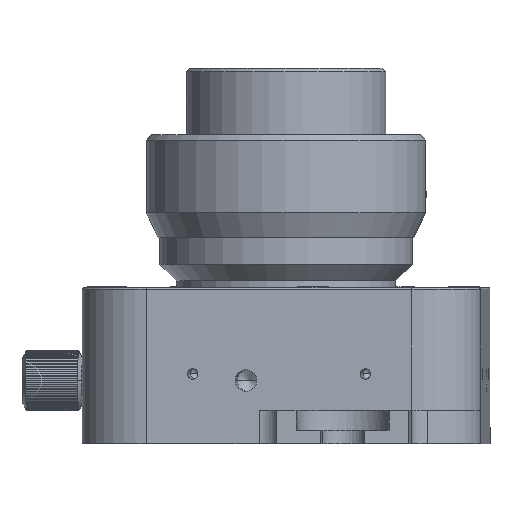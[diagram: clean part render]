
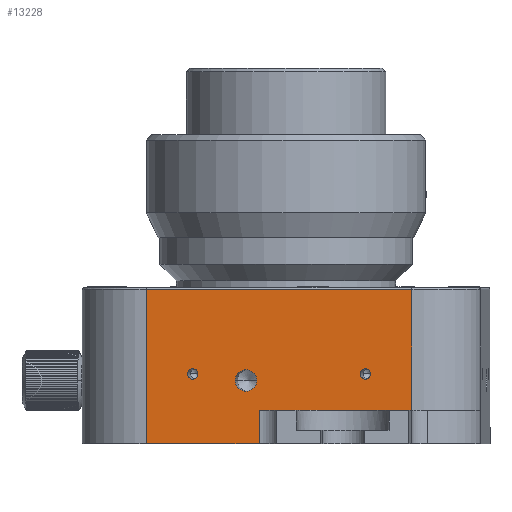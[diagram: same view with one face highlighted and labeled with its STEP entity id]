
A CAD part, left-side view. The second image highlights one B-rep face of the part: STEP entity #13228.
In plain terms, the highlighted planar face has unit normal (-0.999, 0.035, 0).
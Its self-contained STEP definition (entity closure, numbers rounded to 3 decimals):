
#6321 = CARTESIAN_POINT ( 'NONE',  ( -123.002, 2.684, -9.108 ) ) ;
#6328 = CARTESIAN_POINT ( 'NONE',  ( -123.221, -3.617, -9.108 ) ) ;
#6414 = CARTESIAN_POINT ( 'NONE',  ( -123.459, -10.46, 9.092 ) ) ;
#6822 = DIRECTION ( 'NONE',  ( -0.035, -0.999, 0. ) ) ;
#6823 = DIRECTION ( 'NONE',  ( 0.999, -0.035, 0. ) ) ;
#6824 = CARTESIAN_POINT ( 'NONE',  ( -123.216, -3.465, -3.608 ) ) ;
#6825 = AXIS2_PLACEMENT_3D ( 'NONE', #6824, #6823, #6822 ) ;
#6826 = CIRCLE ( 'NONE', #6825, 0.784 ) ;
#6860 = DIRECTION ( 'NONE',  ( -0.035, -0.999, 0. ) ) ;
#6861 = DIRECTION ( 'NONE',  ( 0.999, -0.035, 0. ) ) ;
#6862 = CARTESIAN_POINT ( 'NONE',  ( -122.313, 22.52, -3.608 ) ) ;
#6863 = AXIS2_PLACEMENT_3D ( 'NONE', #6862, #6861, #6860 ) ;
#6864 = CIRCLE ( 'NONE', #6863, 0.783 ) ;
#6871 = DIRECTION ( 'NONE',  ( 0.035, 0.999, 0. ) ) ;
#6872 = VECTOR ( 'NONE', #6871, 1000. ) ;
#6873 = CARTESIAN_POINT ( 'NONE',  ( -122.765, 9.527, 9.092 ) ) ;
#6874 = LINE ( 'NONE', #6873, #6872 ) ;
#6875 = CARTESIAN_POINT ( 'NONE',  ( -122.07, 29.515, 9.092 ) ) ;
#6904 = DIRECTION ( 'NONE',  ( -0.035, -0.999, 0. ) ) ;
#6905 = VECTOR ( 'NONE', #6904, 1000. ) ;
#6906 = CARTESIAN_POINT ( 'NONE',  ( -122.765, 9.527, -9.108 ) ) ;
#6907 = LINE ( 'NONE', #6906, #6905 ) ;
#6914 = DIRECTION ( 'NONE',  ( -0.035, -0.999, 0. ) ) ;
#6915 = DIRECTION ( 'NONE',  ( 0.999, -0.035, 0. ) ) ;
#6916 = CARTESIAN_POINT ( 'NONE',  ( -122.591, 14.524, -4.608 ) ) ;
#6917 = AXIS2_PLACEMENT_3D ( 'NONE', #6916, #6915, #6914 ) ;
#6922 = CIRCLE ( 'NONE', #6917, 1.621 ) ;
#6971 = DIRECTION ( 'NONE',  ( -0.035, -0.999, 0. ) ) ;
#6972 = VECTOR ( 'NONE', #6971, 1000. ) ;
#6973 = CARTESIAN_POINT ( 'NONE',  ( -122.765, 9.527, -9.108 ) ) ;
#6974 = LINE ( 'NONE', #6973, #6972 ) ;
#7076 = DIRECTION ( 'NONE',  ( -0.035, -0.999, 0. ) ) ;
#7077 = VECTOR ( 'NONE', #7076, 1000. ) ;
#7078 = CARTESIAN_POINT ( 'NONE',  ( -122.765, 9.527, -9.108 ) ) ;
#7079 = LINE ( 'NONE', #7078, #7077 ) ;
#7080 = CARTESIAN_POINT ( 'NONE',  ( -123.459, -10.46, -9.108 ) ) ;
#7101 = DIRECTION ( 'NONE',  ( 0., 0., 1. ) ) ;
#7102 = VECTOR ( 'NONE', #7101, 1000. ) ;
#7103 = CARTESIAN_POINT ( 'NONE',  ( -123.459, -10.46, -14.108 ) ) ;
#7108 = LINE ( 'NONE', #7103, #7102 ) ;
#7401 = FACE_BOUND ( 'NONE', #13279, .T. ) ;
#7402 = FACE_BOUND ( 'NONE', #13219, .T. ) ;
#7403 = FACE_BOUND ( 'NONE', #13216, .T. ) ;
#7404 = FACE_OUTER_BOUND ( 'NONE', #13229, .T. ) ;
#7410 = PLANE ( 'NONE',  #7469 ) ;
#7418 = DIRECTION ( 'NONE',  ( -0.035, -0.999, 0. ) ) ;
#7419 = VECTOR ( 'NONE', #7418, 1000. ) ;
#7420 = CARTESIAN_POINT ( 'NONE',  ( -122.07, 29.515, -14.108 ) ) ;
#7421 = LINE ( 'NONE', #7420, #7419 ) ;
#7422 = CARTESIAN_POINT ( 'NONE',  ( -122.07, 29.515, -14.108 ) ) ;
#7423 = DIRECTION ( 'NONE',  ( 0., 0., 1. ) ) ;
#7424 = VECTOR ( 'NONE', #7423, 1000. ) ;
#7425 = CARTESIAN_POINT ( 'NONE',  ( -122.07, 29.515, -14.108 ) ) ;
#7426 = LINE ( 'NONE', #7425, #7424 ) ;
#7466 = DIRECTION ( 'NONE',  ( -0.035, -0.999, 0. ) ) ;
#7467 = DIRECTION ( 'NONE',  ( -0.999, 0.035, 0. ) ) ;
#7468 = CARTESIAN_POINT ( 'NONE',  ( -122.765, 9.527, -14.108 ) ) ;
#7469 = AXIS2_PLACEMENT_3D ( 'NONE', #7468, #7467, #7466 ) ;
#9091 = CARTESIAN_POINT ( 'NONE',  ( -122.66, 12.526, -14.108 ) ) ;
#9261 = DIRECTION ( 'NONE',  ( 0., 0., -1. ) ) ;
#9262 = VECTOR ( 'NONE', #9261, 1000. ) ;
#9263 = CARTESIAN_POINT ( 'NONE',  ( -122.66, 12.526, -14.108 ) ) ;
#9264 = LINE ( 'NONE', #9263, #9262 ) ;
#9265 = CARTESIAN_POINT ( 'NONE',  ( -122.66, 12.526, -9.108 ) ) ;
#9363 = DIRECTION ( 'NONE',  ( -0.035, -0.999, 0. ) ) ;
#9364 = DIRECTION ( 'NONE',  ( 0.999, -0.035, 0. ) ) ;
#9365 = CARTESIAN_POINT ( 'NONE',  ( -122.591, 14.524, -4.608 ) ) ;
#9366 = AXIS2_PLACEMENT_3D ( 'NONE', #9365, #9364, #9363 ) ;
#9367 = CIRCLE ( 'NONE', #9366, 1.621 ) ;
#9369 = CARTESIAN_POINT ( 'NONE',  ( -122.647, 12.904, -4.608 ) ) ;
#9370 = CARTESIAN_POINT ( 'NONE',  ( -122.535, 16.144, -4.608 ) ) ;
#9442 = CARTESIAN_POINT ( 'NONE',  ( -122.286, 23.303, -3.608 ) ) ;
#9461 = CARTESIAN_POINT ( 'NONE',  ( -122.341, 21.737, -3.608 ) ) ;
#9462 = DIRECTION ( 'NONE',  ( -0.035, -0.999, 0. ) ) ;
#9463 = DIRECTION ( 'NONE',  ( 0.999, -0.035, 0. ) ) ;
#9464 = CARTESIAN_POINT ( 'NONE',  ( -122.313, 22.52, -3.608 ) ) ;
#9465 = AXIS2_PLACEMENT_3D ( 'NONE', #9464, #9463, #9462 ) ;
#9466 = CIRCLE ( 'NONE', #9465, 0.783 ) ;
#9818 = CARTESIAN_POINT ( 'NONE',  ( -123.243, -4.248, -3.608 ) ) ;
#9866 = DIRECTION ( 'NONE',  ( -0.035, -0.999, 0. ) ) ;
#9867 = DIRECTION ( 'NONE',  ( 0.999, -0.035, 0. ) ) ;
#9868 = CARTESIAN_POINT ( 'NONE',  ( -123.216, -3.465, -3.608 ) ) ;
#9869 = AXIS2_PLACEMENT_3D ( 'NONE', #9868, #9867, #9866 ) ;
#9870 = CIRCLE ( 'NONE', #9869, 0.784 ) ;
#9891 = CARTESIAN_POINT ( 'NONE',  ( -123.189, -2.682, -3.608 ) ) ;
#12619 = VERTEX_POINT ( 'NONE', #6328 ) ;
#12623 = VERTEX_POINT ( 'NONE', #6321 ) ;
#12653 = VERTEX_POINT ( 'NONE', #6414 ) ;
#12840 = EDGE_CURVE ( 'NONE', #14617, #14581, #6826, .T. ) ;
#12894 = VERTEX_POINT ( 'NONE', #6875 ) ;
#12896 = EDGE_CURVE ( 'NONE', #12653, #12894, #6874, .T. ) ;
#12899 = EDGE_CURVE ( 'NONE', #14415, #14406, #6864, .T. ) ;
#12905 = EDGE_CURVE ( 'NONE', #14359, #14360, #6922, .T. ) ;
#12909 = EDGE_CURVE ( 'NONE', #12623, #12619, #6907, .T. ) ;
#12942 = EDGE_CURVE ( 'NONE', #14316, #12623, #6974, .T. ) ;
#12991 = VERTEX_POINT ( 'NONE', #7080 ) ;
#12993 = EDGE_CURVE ( 'NONE', #12619, #12991, #7079, .T. ) ;
#13021 = EDGE_CURVE ( 'NONE', #12991, #12653, #7108, .T. ) ;
#13208 = EDGE_CURVE ( 'NONE', #13209, #12894, #7426, .T. ) ;
#13209 = VERTEX_POINT ( 'NONE', #7422 ) ;
#13210 = ORIENTED_EDGE ( 'NONE', *, *, #13211, .T. ) ;
#13211 = EDGE_CURVE ( 'NONE', #13209, #14211, #7421, .T. ) ;
#13212 = ORIENTED_EDGE ( 'NONE', *, *, #14318, .F. ) ;
#13213 = ORIENTED_EDGE ( 'NONE', *, *, #12942, .T. ) ;
#13214 = ORIENTED_EDGE ( 'NONE', *, *, #12909, .T. ) ;
#13215 = ORIENTED_EDGE ( 'NONE', *, *, #12993, .T. ) ;
#13216 = EDGE_LOOP ( 'NONE', ( #13217, #13218 ) ) ;
#13217 = ORIENTED_EDGE ( 'NONE', *, *, #14363, .T. ) ;
#13218 = ORIENTED_EDGE ( 'NONE', *, *, #12905, .T. ) ;
#13219 = EDGE_LOOP ( 'NONE', ( #13277, #13278 ) ) ;
#13228 = ADVANCED_FACE ( 'NONE', ( #7404, #7403, #7402, #7401 ), #7410, .T. ) ;
#13229 = EDGE_LOOP ( 'NONE', ( #13230, #13231, #13232, #13210, #13212, #13213, #13214, #13215 ) ) ;
#13230 = ORIENTED_EDGE ( 'NONE', *, *, #13021, .T. ) ;
#13231 = ORIENTED_EDGE ( 'NONE', *, *, #12896, .T. ) ;
#13232 = ORIENTED_EDGE ( 'NONE', *, *, #13208, .F. ) ;
#13277 = ORIENTED_EDGE ( 'NONE', *, *, #14405, .T. ) ;
#13278 = ORIENTED_EDGE ( 'NONE', *, *, #12899, .T. ) ;
#13279 = EDGE_LOOP ( 'NONE', ( #13280, #13281 ) ) ;
#13280 = ORIENTED_EDGE ( 'NONE', *, *, #14596, .T. ) ;
#13281 = ORIENTED_EDGE ( 'NONE', *, *, #12840, .T. ) ;
#14211 = VERTEX_POINT ( 'NONE', #9091 ) ;
#14316 = VERTEX_POINT ( 'NONE', #9265 ) ;
#14318 = EDGE_CURVE ( 'NONE', #14316, #14211, #9264, .T. ) ;
#14359 = VERTEX_POINT ( 'NONE', #9370 ) ;
#14360 = VERTEX_POINT ( 'NONE', #9369 ) ;
#14363 = EDGE_CURVE ( 'NONE', #14360, #14359, #9367, .T. ) ;
#14405 = EDGE_CURVE ( 'NONE', #14406, #14415, #9466, .T. ) ;
#14406 = VERTEX_POINT ( 'NONE', #9461 ) ;
#14415 = VERTEX_POINT ( 'NONE', #9442 ) ;
#14581 = VERTEX_POINT ( 'NONE', #9818 ) ;
#14596 = EDGE_CURVE ( 'NONE', #14581, #14617, #9870, .T. ) ;
#14617 = VERTEX_POINT ( 'NONE', #9891 ) ;
